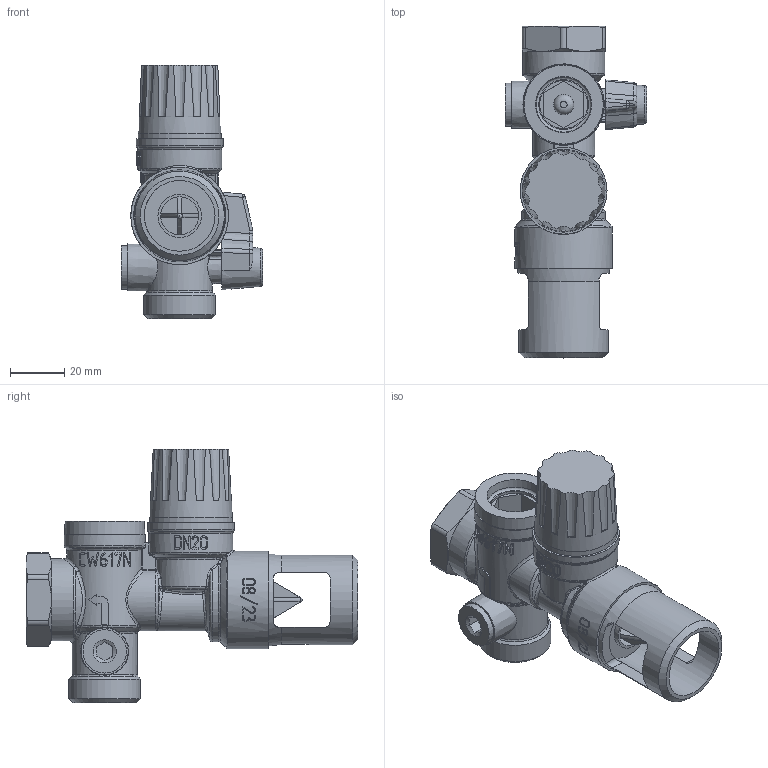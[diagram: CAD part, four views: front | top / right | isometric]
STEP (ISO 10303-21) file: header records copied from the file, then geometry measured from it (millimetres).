
FILE_DESCRIPTION(('STEP AP203'), '1');
FILE_NAME('ÂÐ.494726.001 - VT.461.NC.05 Ãðóï. áåçîïàñ. áîéë', '2024-01-19T08:09:16', ('User'), ('Vesta'), 'C3D Converter', 'C3D Toolkit', '');
FILE_SCHEMA(('CONFIG_CONTROL_DESIGN'));
Length unit declared in the file: millimetre
Products named in the file (1): ВР.494726.001
Bounding box: 52.1 x 122.4 x 93.6 mm (x, y, z)
Surface area: 30237.8 mm2
Topology: 1 solids, 2 shells, 784 faces, 2104 edges, 1359 vertices
Faces by surface type: plane 264, extrusion 257, cylinder 91, bspline 90, cone 51, torus 29, sphere 2
Full cylindrical faces by diameter (mm): 7.5 x1, 8.5 x1, 16 x2, 17 x1, 17.7 x1, 24.17 x1, 26.1 x1, 26.44 x1, 30 x1, 30.3 x1, 30.5 x1, 31 x1, 32 x1, 33 x1, 36 x1
Entity records: 47462 total; most frequent: CARTESIAN_POINT 30214, ORIENTED_EDGE 4121, DIRECTION 2469, EDGE_CURVE 2062, VERTEX_POINT 1359, B_SPLINE_CURVE_WITH_KNOTS 1175, VECTOR 951, EDGE_LOOP 866
